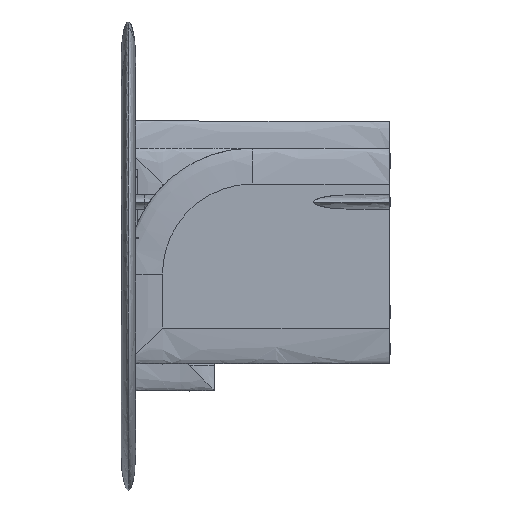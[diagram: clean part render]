
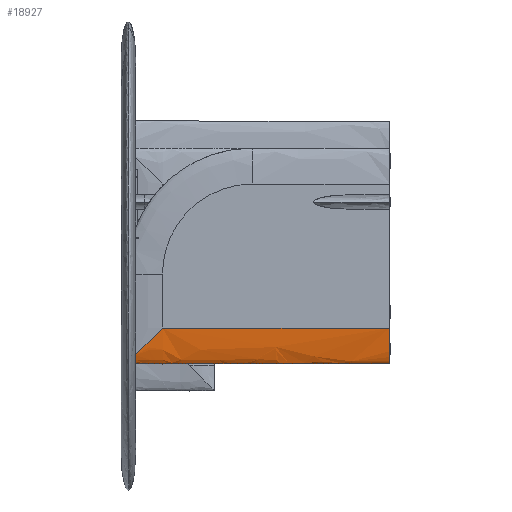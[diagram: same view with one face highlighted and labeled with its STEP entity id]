
A CAD part, left-side view. The second image highlights one B-rep face of the part: STEP entity #18927.
In plain terms, the highlighted free-form (B-spline) face has degree [3, 1] with [4, 2] control points.
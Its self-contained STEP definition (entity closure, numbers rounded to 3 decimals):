
#87 =( BOUNDED_SURFACE ( )  B_SPLINE_SURFACE ( 3, 1, ( 
 ( #4129, #7462 ),
 ( #13743, #11431 ),
 ( #4002, #21577 ),
 ( #11562, #11811 ) ),
 .UNSPECIFIED., .F., .F., .F. ) 
 B_SPLINE_SURFACE_WITH_KNOTS ( ( 4, 4 ),
 ( 2, 2 ),
 ( 0., 1. ),
 ( 0., 1. ),
 .UNSPECIFIED. ) 
 GEOMETRIC_REPRESENTATION_ITEM ( )  RATIONAL_B_SPLINE_SURFACE ( (
 ( 1., 1.),
 ( 0.333, 0.333),
 ( 0.333, 0.333),
 ( 1., 1.) ) ) 
 REPRESENTATION_ITEM ( '' )  SURFACE ( )  );
#93 = CARTESIAN_POINT ( 'NONE',  ( 230.622, 692.58, -412.58 ) ) ;
#193 = VERTEX_POINT ( 'NONE', #23593 ) ;
#400 = VERTEX_POINT ( 'NONE', #6102 ) ;
#454 = CARTESIAN_POINT ( 'NONE',  ( 195.148, 642.537, -362.537 ) ) ;
#1361 =( BOUNDED_CURVE ( )  B_SPLINE_CURVE ( 3, ( #24017, #14137, #14014, #21974 ),
 .UNSPECIFIED., .F., .T. ) 
 B_SPLINE_CURVE_WITH_KNOTS ( ( 4, 4 ),
 ( 2.419, 3.864 ),
 .UNSPECIFIED. ) 
 CURVE ( )  GEOMETRIC_REPRESENTATION_ITEM ( )  RATIONAL_B_SPLINE_CURVE ( ( 1., 0.833, 0.833, 1. ) ) 
 REPRESENTATION_ITEM ( '' )  );
#2511 = EDGE_CURVE ( 'NONE', #17224, #4180, #1361, .T. ) ;
#3167 = CARTESIAN_POINT ( 'NONE',  ( 195., 630.394, -350.394 ) ) ;
#3198 = CARTESIAN_POINT ( 'NONE',  ( 234.041, 661.335, -381.335 ) ) ;
#3358 = EDGE_LOOP ( 'NONE', ( #15298, #7249, #13149, #12525, #10373, #8807 ) ) ;
#3415 = CARTESIAN_POINT ( 'NONE',  ( 195.002, 631.568, -351.568 ) ) ;
#3493 = EDGE_CURVE ( 'NONE', #7342, #23382, #6322, .T. ) ;
#3960 = CARTESIAN_POINT ( 'NONE',  ( 228.229, 705., -425. ) ) ;
#4002 = CARTESIAN_POINT ( 'NONE',  ( 235., 705., -550. ) ) ;
#4129 = CARTESIAN_POINT ( 'NONE',  ( 195., 705., -350. ) ) ;
#4161 = B_SPLINE_CURVE_WITH_KNOTS ( 'NONE', 3,
 ( #22218, #20306, #12936, #20786, #3198, #13697, #5754, #23428, #17678, #23678, #93, #7797, #5882, #3960 ),
 .UNSPECIFIED., .F., .F.,
 ( 4, 2, 2, 2, 2, 2, 4 ),
 ( 0., 0.026, 0.053, 0.066, 0.08, 0.093, 0.106 ),
 .UNSPECIFIED. ) ;
#4180 = VERTEX_POINT ( 'NONE', #20705 ) ;
#4862 = CARTESIAN_POINT ( 'NONE',  ( 195., 630., -350. ) ) ;
#5165 = DIRECTION ( 'NONE',  ( 0., -1., 0. ) ) ;
#5382 = CARTESIAN_POINT ( 'NONE',  ( 195., 0., -350. ) ) ;
#5516 = CARTESIAN_POINT ( 'NONE',  ( 195., 0., -550. ) ) ;
#5754 = CARTESIAN_POINT ( 'NONE',  ( 232.989, 673.85, -393.85 ) ) ;
#5882 = CARTESIAN_POINT ( 'NONE',  ( 228.93, 701.907, -421.907 ) ) ;
#6068 = EDGE_CURVE ( 'NONE', #193, #23382, #7706, .T. ) ;
#6102 = CARTESIAN_POINT ( 'NONE',  ( 195., 630., -350. ) ) ;
#6322 =( BOUNDED_CURVE ( )  B_SPLINE_CURVE ( 3, ( #5382, #5516, #19225, #16787 ),
 .UNSPECIFIED., .F., .T. ) 
 B_SPLINE_CURVE_WITH_KNOTS ( ( 4, 4 ),
 ( 1.571, 4.712 ),
 .UNSPECIFIED. ) 
 CURVE ( )  GEOMETRIC_REPRESENTATION_ITEM ( )  RATIONAL_B_SPLINE_CURVE ( ( 1., 0.333, 0.333, 1. ) ) 
 REPRESENTATION_ITEM ( '' )  );
#6510 = CARTESIAN_POINT ( 'NONE',  ( 195.059, 637.836, -357.836 ) ) ;
#6667 = CARTESIAN_POINT ( 'NONE',  ( 200.463, 698.802, -418.802 ) ) ;
#6798 = EDGE_CURVE ( 'NONE', #193, #4180, #4161, .T. ) ;
#6813 = CARTESIAN_POINT ( 'NONE',  ( 235., 0., -350. ) ) ;
#7154 = CARTESIAN_POINT ( 'NONE',  ( 197.011, 673.85, -393.85 ) ) ;
#7249 = ORIENTED_EDGE ( 'NONE', *, *, #2511, .T. ) ;
#7342 = VERTEX_POINT ( 'NONE', #12071 ) ;
#7462 = CARTESIAN_POINT ( 'NONE',  ( 195., 0., -350. ) ) ;
#7573 = EDGE_CURVE ( 'NONE', #400, #7342, #20814, .T. ) ;
#7655 = EDGE_CURVE ( 'NONE', #17224, #400, #22186, .T. ) ;
#7706 = LINE ( 'NONE', #17706, #11617 ) ;
#7797 = CARTESIAN_POINT ( 'NONE',  ( 229.537, 698.802, -418.802 ) ) ;
#8807 = ORIENTED_EDGE ( 'NONE', *, *, #7573, .F. ) ;
#9491 = CARTESIAN_POINT ( 'NONE',  ( 201.771, 705., -425. ) ) ;
#10105 = CARTESIAN_POINT ( 'NONE',  ( 195.597, 655.071, -375.071 ) ) ;
#10373 = ORIENTED_EDGE ( 'NONE', *, *, #3493, .F. ) ;
#11431 = CARTESIAN_POINT ( 'NONE',  ( 195., 0., -550. ) ) ;
#11562 = CARTESIAN_POINT ( 'NONE',  ( 235., 705., -350. ) ) ;
#11617 = VECTOR ( 'NONE', #21805, 1000. ) ;
#11811 = CARTESIAN_POINT ( 'NONE',  ( 235., 0., -350. ) ) ;
#12040 = CARTESIAN_POINT ( 'NONE',  ( 199.378, 692.58, -412.58 ) ) ;
#12071 = CARTESIAN_POINT ( 'NONE',  ( 195., 0., -350. ) ) ;
#12100 = CARTESIAN_POINT ( 'NONE',  ( 201.771, 705., -425. ) ) ;
#12525 = ORIENTED_EDGE ( 'NONE', *, *, #6068, .T. ) ;
#12773 = CARTESIAN_POINT ( 'NONE',  ( 195.015, 633.919, -353.919 ) ) ;
#12936 = CARTESIAN_POINT ( 'NONE',  ( 234.883, 642.537, -362.537 ) ) ;
#13149 = ORIENTED_EDGE ( 'NONE', *, *, #6798, .F. ) ;
#13305 = CARTESIAN_POINT ( 'NONE',  ( 195.959, 661.335, -381.335 ) ) ;
#13335 = CARTESIAN_POINT ( 'NONE',  ( 195., 730.6, -350. ) ) ;
#13697 = CARTESIAN_POINT ( 'NONE',  ( 233.279, 670.722, -390.722 ) ) ;
#13743 = CARTESIAN_POINT ( 'NONE',  ( 195., 705., -550. ) ) ;
#14014 = CARTESIAN_POINT ( 'NONE',  ( 220.292, 705., -460. ) ) ;
#14137 = CARTESIAN_POINT ( 'NONE',  ( 209.708, 705., -460. ) ) ;
#14220 = CARTESIAN_POINT ( 'NONE',  ( 198.902, 689.464, -409.464 ) ) ;
#15078 = CARTESIAN_POINT ( 'NONE',  ( 197.677, 680.101, -400.101 ) ) ;
#15298 = ORIENTED_EDGE ( 'NONE', *, *, #7655, .F. ) ;
#16787 = CARTESIAN_POINT ( 'NONE',  ( 235., 0., -350. ) ) ;
#17204 = FACE_OUTER_BOUND ( 'NONE', #3358, .T. ) ;
#17224 = VERTEX_POINT ( 'NONE', #12100 ) ;
#17312 = CARTESIAN_POINT ( 'NONE',  ( 201.07, 701.907, -421.907 ) ) ;
#17678 = CARTESIAN_POINT ( 'NONE',  ( 231.949, 683.225, -403.225 ) ) ;
#17706 = CARTESIAN_POINT ( 'NONE',  ( 235., 730.6, -350. ) ) ;
#18822 = CARTESIAN_POINT ( 'NONE',  ( 195.006, 632.743, -352.743 ) ) ;
#18927 = ADVANCED_FACE ( 'NONE', ( #17204 ), #87, .T. ) ;
#19089 = CARTESIAN_POINT ( 'NONE',  ( 196.721, 670.723, -390.723 ) ) ;
#19225 = CARTESIAN_POINT ( 'NONE',  ( 235., 0., -550. ) ) ;
#19910 = VECTOR ( 'NONE', #5165, 1000. ) ;
#20306 = CARTESIAN_POINT ( 'NONE',  ( 235., 636.269, -356.269 ) ) ;
#20705 = CARTESIAN_POINT ( 'NONE',  ( 228.229, 705., -425. ) ) ;
#20786 = CARTESIAN_POINT ( 'NONE',  ( 234.403, 655.071, -375.071 ) ) ;
#20814 = LINE ( 'NONE', #13335, #19910 ) ;
#21577 = CARTESIAN_POINT ( 'NONE',  ( 235., 0., -550. ) ) ;
#21805 = DIRECTION ( 'NONE',  ( 0., -1., 0. ) ) ;
#21901 = CARTESIAN_POINT ( 'NONE',  ( 195.237, 645.671, -365.671 ) ) ;
#21974 = CARTESIAN_POINT ( 'NONE',  ( 228.229, 705., -425. ) ) ;
#22186 = B_SPLINE_CURVE_WITH_KNOTS ( 'NONE', 3,
 ( #9491, #17312, #6667, #12040, #14220, #24730, #15078, #7154, #19089, #13305, #10105, #21901, #454, #6510, #22528, #12773, #18822, #3415, #22409, #3167, #4862 ),
 .UNSPECIFIED., .F., .F.,
 ( 4, 2, 2, 2, 2, 2, 2, 2, 1, 2, 4 ),
 ( 0.039, 0.053, 0.066, 0.079, 0.093, 0.119, 0.133, 0.139, 0.143, 0.144, 0.146 ),
 .UNSPECIFIED. ) ;
#22218 = CARTESIAN_POINT ( 'NONE',  ( 235., 630., -350. ) ) ;
#22409 = CARTESIAN_POINT ( 'NONE',  ( 195., 630.784, -350.784 ) ) ;
#22528 = CARTESIAN_POINT ( 'NONE',  ( 195.037, 636.269, -356.269 ) ) ;
#23382 = VERTEX_POINT ( 'NONE', #6813 ) ;
#23428 = CARTESIAN_POINT ( 'NONE',  ( 232.323, 680.101, -400.101 ) ) ;
#23593 = CARTESIAN_POINT ( 'NONE',  ( 235., 630., -350. ) ) ;
#23678 = CARTESIAN_POINT ( 'NONE',  ( 231.098, 689.464, -409.464 ) ) ;
#24017 = CARTESIAN_POINT ( 'NONE',  ( 201.771, 705., -425. ) ) ;
#24730 = CARTESIAN_POINT ( 'NONE',  ( 198.051, 683.225, -403.225 ) ) ;
